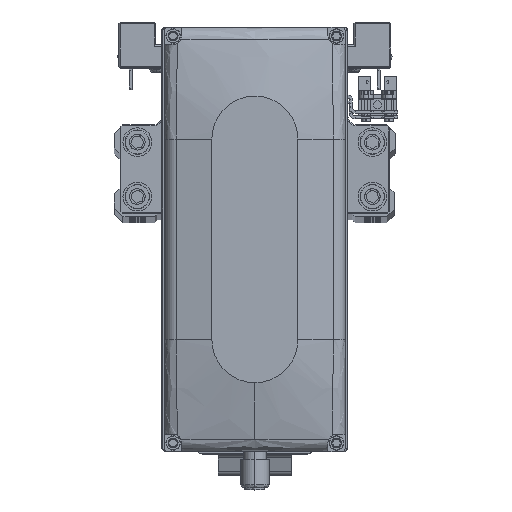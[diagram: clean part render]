
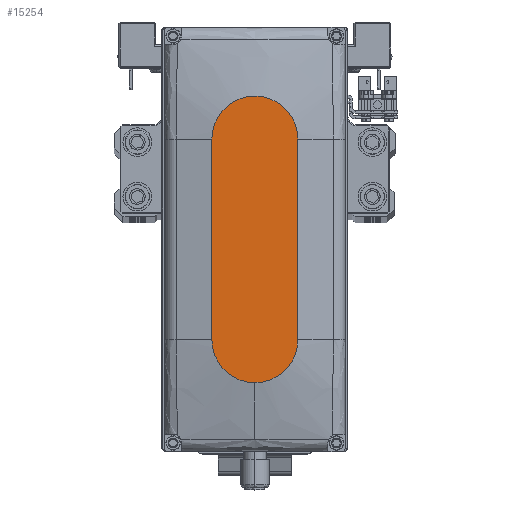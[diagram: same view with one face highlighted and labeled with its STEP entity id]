
A CAD part, top view. The second image highlights one B-rep face of the part: STEP entity #15254.
In plain terms, the highlighted planar face has unit normal (0, 0, 1).
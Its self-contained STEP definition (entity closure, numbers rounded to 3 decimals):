
#123 = EDGE_CURVE ( 'NONE', #23776, #1351, #39838, .T. ) ;
#1351 = VERTEX_POINT ( 'NONE', #24706 ) ;
#1530 = PLANE ( 'NONE',  #9669 ) ;
#1658 = ORIENTED_EDGE ( 'NONE', *, *, #23484, .T. ) ;
#6188 = CARTESIAN_POINT ( 'NONE',  ( -35., -15., 35. ) ) ;
#7419 = CARTESIAN_POINT ( 'NONE',  ( 35., 0., 35. ) ) ;
#8544 = ORIENTED_EDGE ( 'NONE', *, *, #123, .T. ) ;
#9621 = CARTESIAN_POINT ( 'NONE',  ( -35., 15., 35. ) ) ;
#9669 = AXIS2_PLACEMENT_3D ( 'NONE', #15532, #29563, #43551 ) ;
#10485 = CIRCLE ( 'NONE', #36135, 15. ) ;
#10742 = CARTESIAN_POINT ( 'NONE',  ( 35., 15., 35. ) ) ;
#11589 = DIRECTION ( 'NONE',  ( 0., 0., 1. ) ) ;
#12232 = VERTEX_POINT ( 'NONE', #10742 ) ;
#12419 = VERTEX_POINT ( 'NONE', #16819 ) ;
#13174 = CARTESIAN_POINT ( 'NONE',  ( 35., 0., 35. ) ) ;
#13228 = ORIENTED_EDGE ( 'NONE', *, *, #43534, .T. ) ;
#13730 = CARTESIAN_POINT ( 'NONE',  ( 35., -15., 35. ) ) ;
#15254 = ADVANCED_FACE ( 'NONE', ( #32994 ), #1530, .T. ) ;
#15532 = CARTESIAN_POINT ( 'NONE',  ( 0., 0., 35. ) ) ;
#16819 = CARTESIAN_POINT ( 'NONE',  ( 50., 0., 35. ) ) ;
#20055 = AXIS2_PLACEMENT_3D ( 'NONE', #43034, #11589, #25590 ) ;
#20189 = DIRECTION ( 'NONE',  ( 1., 0., 0. ) ) ;
#21440 = DIRECTION ( 'NONE',  ( 0., 0., 1. ) ) ;
#23484 = EDGE_CURVE ( 'NONE', #12232, #23776, #41053, .T. ) ;
#23633 = DIRECTION ( 'NONE',  ( -1., 0., 0. ) ) ;
#23776 = VERTEX_POINT ( 'NONE', #32804 ) ;
#24706 = CARTESIAN_POINT ( 'NONE',  ( -35., -15., 35. ) ) ;
#25590 = DIRECTION ( 'NONE',  ( 1., 0., 0. ) ) ;
#26204 = CIRCLE ( 'NONE', #32076, 15. ) ;
#27191 = DIRECTION ( 'NONE',  ( 0., 0., 1. ) ) ;
#27402 = VERTEX_POINT ( 'NONE', #13730 ) ;
#27514 = VECTOR ( 'NONE', #20189, 1000. ) ;
#29371 = EDGE_CURVE ( 'NONE', #12419, #12232, #10485, .T. ) ;
#29563 = DIRECTION ( 'NONE',  ( 0., 0., 1. ) ) ;
#30069 = VECTOR ( 'NONE', #23633, 1000. ) ;
#32051 = EDGE_CURVE ( 'NONE', #27402, #12419, #26204, .T. ) ;
#32076 = AXIS2_PLACEMENT_3D ( 'NONE', #13174, #27191, #41167 ) ;
#32479 = ORIENTED_EDGE ( 'NONE', *, *, #29371, .T. ) ;
#32804 = CARTESIAN_POINT ( 'NONE',  ( -35., 15., 35. ) ) ;
#32994 = FACE_OUTER_BOUND ( 'NONE', #38554, .T. ) ;
#35450 = DIRECTION ( 'NONE',  ( 1., 0., 0. ) ) ;
#35905 = ORIENTED_EDGE ( 'NONE', *, *, #32051, .T. ) ;
#36135 = AXIS2_PLACEMENT_3D ( 'NONE', #7419, #21440, #35450 ) ;
#37619 = LINE ( 'NONE', #6188, #27514 ) ;
#38554 = EDGE_LOOP ( 'NONE', ( #1658, #8544, #13228, #35905, #32479 ) ) ;
#39838 = CIRCLE ( 'NONE', #20055, 15. ) ;
#41053 = LINE ( 'NONE', #9621, #30069 ) ;
#41167 = DIRECTION ( 'NONE',  ( 1., 0., 0. ) ) ;
#43034 = CARTESIAN_POINT ( 'NONE',  ( -35., 0., 35. ) ) ;
#43534 = EDGE_CURVE ( 'NONE', #1351, #27402, #37619, .T. ) ;
#43551 = DIRECTION ( 'NONE',  ( 1., 0., 0. ) ) ;
